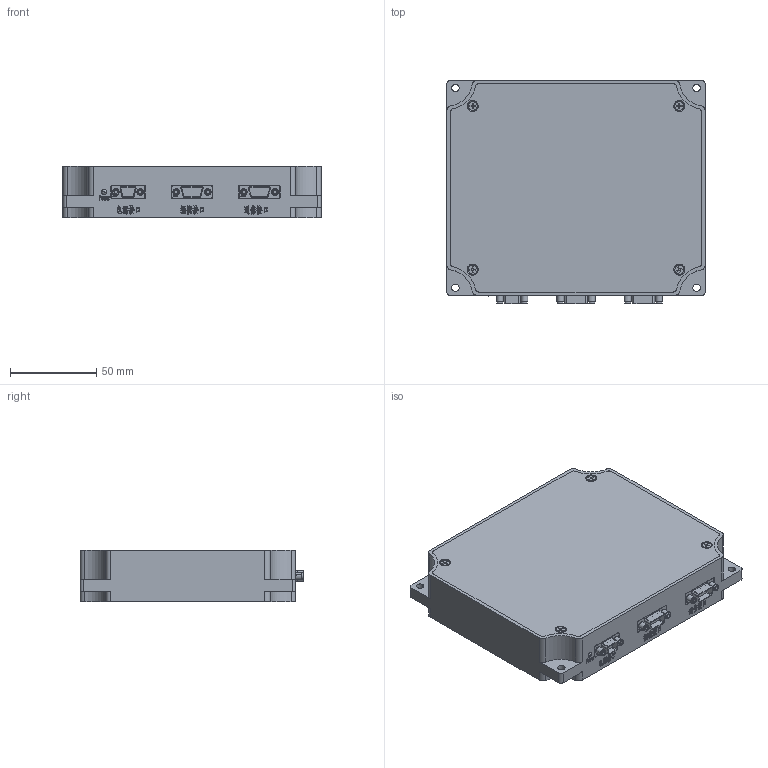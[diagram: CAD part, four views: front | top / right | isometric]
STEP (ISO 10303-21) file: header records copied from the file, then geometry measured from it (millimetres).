
FILE_DESCRIPTION (( 'STEP AP203' ), '1' );
FILE_NAME ('E80.D3S-K蚾饜极.STEP', '2024-10-31T01:39:53', ( 'User' ), ( 'china' ), 'SwSTEP 2.0', 'SolidWorks 2016', '' );
FILE_SCHEMA (( 'CONFIG_CONTROL_DESIGN' ));
Products named in the file (1): E80.D3S-K蚾饜极
Bounding box: 150 x 129.8 x 30 mm (x, y, z)
Surface area: 56066.8 mm2 (no closed solid volume)
Topology: 0 solids, 57 shells, 388 faces, 4146 edges, 3828 vertices
Faces by surface type: plane 209, cylinder 163, cone 8, bspline 6, sphere 2
Entity records: 46418 total; most frequent: CARTESIAN_POINT 19767, ORIENTED_EDGE 4903, DIRECTION 4223, EDGE_CURVE 4142, VERTEX_POINT 3826, VECTOR 2661, LINE 2661, B_SPLINE_CURVE_WITH_KNOTS 1083
